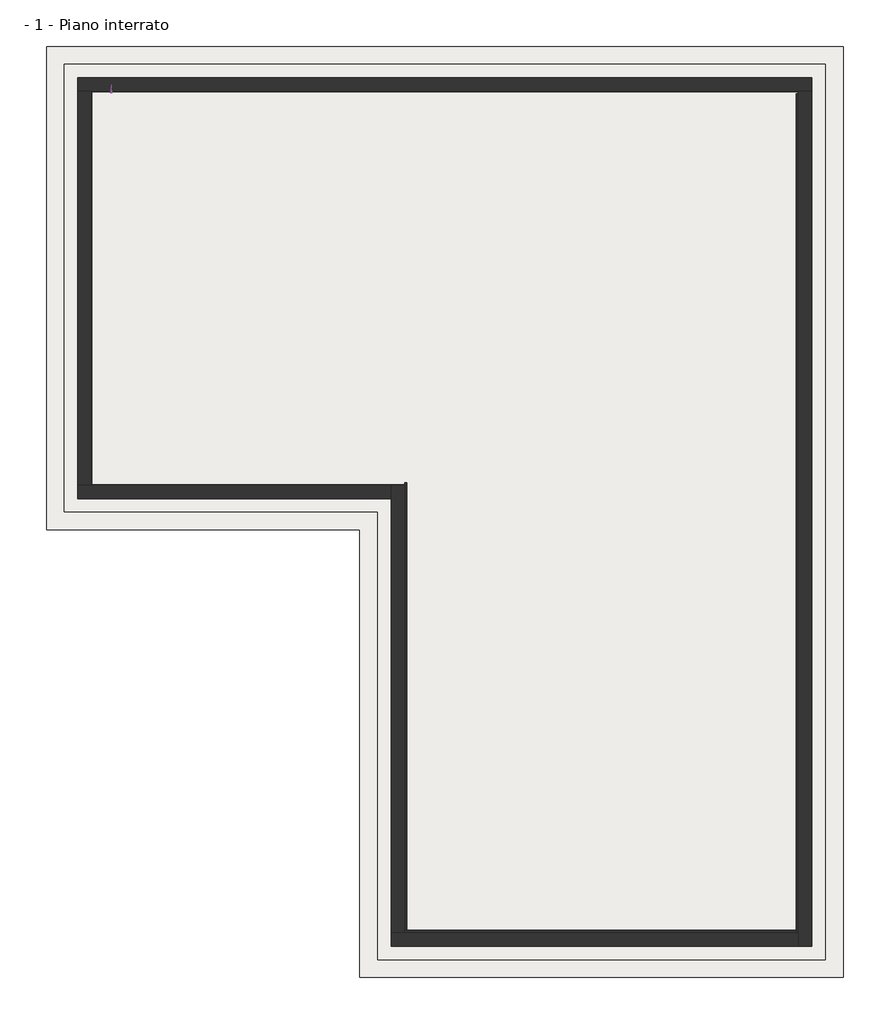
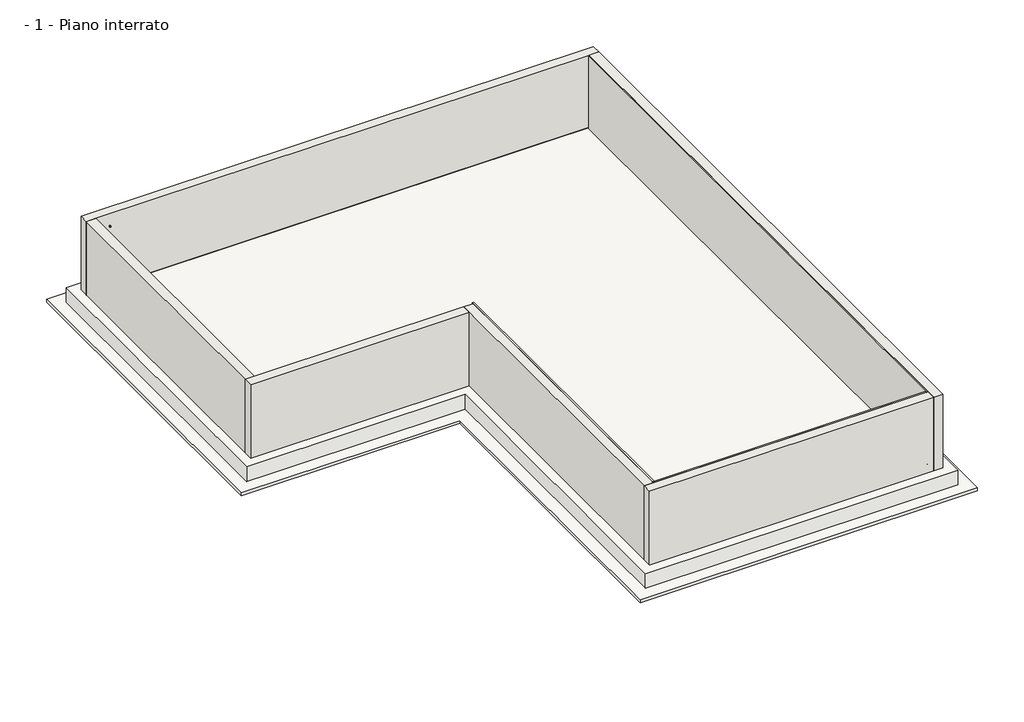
# One storey: 9 walls, 4 slabs, 3 proxies.
"""IFC4 building model written with IfcOpenShell, lengths in millimetres."""

from ifc_helpers import new_model, si_unit, frame, origin, place, context, project, spatial, polyline, ellipse_curve, outline, extrude, faceted_brep, transform, mapped, element, save
from ifc_brep_helpers import plane_surface, cylinder_surface, advanced_brep
from components import generic_models_02427750

model = new_model("IFC4")

# Units and contexts
model_context = context("Model", 3, world=origin())
ifc_project = project(units=[si_unit("LENGTHUNIT", "METRE", prefix="MILLI")], contexts=[model_context])

# Site, building, storey
site = spatial("IfcSite", under=ifc_project)
building = spatial("IfcBuilding", under=site)
storey = spatial("IfcBuildingStorey", under=building, Name="- 1 - Piano interrato", Elevation=-2500.0)

# Proxies
placement = place(None, origin())
element("IfcBuildingElementProxy", 1, Name="AKTI-VO 201", ObjectType="AKTI-VO 201", at=placement, inside=storey, context=model_context, shape_type="AdvancedBrep", body=[
    advanced_brep(
    [(-5527.8968209, 9028.648913, -2445.0), (-5517.8968209, 9018.648913, -2445.0), (10272.1031791, 9028.648913, -2445.0), (10262.1031791, 9018.648913, -2445.0)],
    [
        (0, 1, ellipse_curve(frame((-5522.8968209, 9023.648913, -2445.0), z_axis=(-0.7071067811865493, -0.7071067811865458, 0.0), x_axis=(-0.7071067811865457, 0.7071067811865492, 0.0)), 7.0710678, 5.0)),
        (1, 0, ellipse_curve(frame((-5522.8968209, 9023.648913, -2445.0), z_axis=(-0.7071067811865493, -0.7071067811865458, 0.0), x_axis=(-0.7071067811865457, 0.7071067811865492, 0.0)), 7.0710678, 5.0)),
        (2, 3, ellipse_curve(frame((10267.1031791, 9023.648913, -2445.0), z_axis=(0.7071067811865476, -0.7071067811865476, 0.0), x_axis=(-0.7071067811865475, -0.7071067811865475, 0.0)), 7.0710678, 5.0)),
        (3, 2, ellipse_curve(frame((10267.1031791, 9023.648913, -2445.0), z_axis=(0.7071067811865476, -0.7071067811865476, 0.0), x_axis=(-0.7071067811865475, -0.7071067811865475, 0.0)), 7.0710678, 5.0)),
        (0, 2),
        (3, 1),
    ],
    [
        plane_surface(frame((-5527.8968209, 9028.648913, -2145.2), z_axis=(-0.7071067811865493, -0.7071067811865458, 0.0), x_axis=(0.7071067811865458, -0.7071067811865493, 0.0))),
        plane_surface(frame((10272.1031791, 9028.648913, -2145.2), z_axis=(0.7071067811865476, -0.7071067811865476, 0.0), x_axis=(-0.7071067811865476, -0.7071067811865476, 0.0))),
        cylinder_surface(frame((-5527.8968209, 9023.648913, -2445.0), z_axis=(-1.0, 0.0, 0.0), x_axis=(0.0, -1.0, 0.0)), 5.0),
    ],
    [
        (0, [[1, 2]]),
        (1, [[3, 4]]),
        (2, [[-1, 5, -4, 6]]),
        (2, [[-2, -6, -3, -5]]),
    ],
),
    advanced_brep(
    [(-5527.8968209, 228.648913, -2445.0), (-5517.8968209, 238.648913, -2445.0), (-5527.8968209, 9028.648913, -2445.0), (-5517.8968209, 9018.648913, -2445.0)],
    [
        (0, 1, ellipse_curve(frame((-5522.8968209, 233.648913, -2445.0), z_axis=(0.7071067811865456, -0.7071067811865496, 0.0), x_axis=(-0.7071067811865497, -0.7071067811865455, 0.0)), 7.0710678, 5.0)),
        (1, 0, ellipse_curve(frame((-5522.8968209, 233.648913, -2445.0), z_axis=(0.7071067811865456, -0.7071067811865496, 0.0), x_axis=(-0.7071067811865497, -0.7071067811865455, 0.0)), 7.0710678, 5.0)),
        (2, 3, ellipse_curve(frame((-5522.8968209, 9023.648913, -2445.0), z_axis=(0.7071067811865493, 0.7071067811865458, 0.0), x_axis=(0.7071067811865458, -0.7071067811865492, 0.0)), 7.0710678, 5.0)),
        (3, 2, ellipse_curve(frame((-5522.8968209, 9023.648913, -2445.0), z_axis=(0.7071067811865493, 0.7071067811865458, 0.0), x_axis=(0.7071067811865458, -0.7071067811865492, 0.0)), 7.0710678, 5.0)),
        (0, 2),
        (3, 1),
    ],
    [
        plane_surface(frame((-5527.8968209, 228.648913, -2145.2), z_axis=(0.7071067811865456, -0.7071067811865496, 0.0), x_axis=(0.7071067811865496, 0.7071067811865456, 0.0))),
        plane_surface(frame((-5527.8968209, 9028.648913, -2145.2), z_axis=(0.7071067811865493, 0.7071067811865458, 0.0), x_axis=(0.7071067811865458, -0.7071067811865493, 0.0))),
        cylinder_surface(frame((-5522.8968209, 228.648913, -2445.0), z_axis=(0.0, -1.0, 0.0), x_axis=(1.0, 0.0, 0.0)), 5.0),
    ],
    [
        (0, [[1, 2]]),
        (1, [[3, 4]]),
        (2, [[-1, 5, -4, 6]]),
        (2, [[-2, -6, -3, -5]]),
    ],
),
    advanced_brep(
    [(10272.1031791, 9028.648913, -2445.0), (10262.1031791, 9018.648913, -2445.0), (10272.1031791, -9771.351087, -2445.0), (10262.1031791, -9761.351087, -2445.0)],
    [
        (0, 1, ellipse_curve(frame((10267.1031791, 9023.648913, -2445.0), z_axis=(-0.7071067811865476, 0.7071067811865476, 0.0), x_axis=(0.7071067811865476, 0.7071067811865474, 0.0)), 7.0710678, 5.0)),
        (1, 0, ellipse_curve(frame((10267.1031791, 9023.648913, -2445.0), z_axis=(-0.7071067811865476, 0.7071067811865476, 0.0), x_axis=(0.7071067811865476, 0.7071067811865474, 0.0)), 7.0710678, 5.0)),
        (2, 3, ellipse_curve(frame((10267.1031791, -9766.351087, -2445.0), z_axis=(-0.7071067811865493, -0.7071067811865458, 0.0), x_axis=(-0.7071067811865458, 0.707106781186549, 0.0)), 7.0710678, 5.0)),
        (3, 2, ellipse_curve(frame((10267.1031791, -9766.351087, -2445.0), z_axis=(-0.7071067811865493, -0.7071067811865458, 0.0), x_axis=(-0.7071067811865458, 0.707106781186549, 0.0)), 7.0710678, 5.0)),
        (0, 2),
        (3, 1),
    ],
    [
        plane_surface(frame((10272.1031791, 9028.648913, -2145.2), z_axis=(-0.7071067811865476, 0.7071067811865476, 0.0), x_axis=(-0.7071067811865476, -0.7071067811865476, 0.0))),
        plane_surface(frame((10272.1031791, -9771.351087, -2145.2), z_axis=(-0.7071067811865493, -0.7071067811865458, 0.0), x_axis=(-0.7071067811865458, 0.7071067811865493, 0.0))),
        cylinder_surface(frame((10267.1031791, 9028.648913, -2445.0), z_axis=(0.0, 1.0, 0.0), x_axis=(-1.0, 0.0, 0.0)), 5.0),
    ],
    [
        (0, [[1, 2]]),
        (1, [[3, 4]]),
        (2, [[-1, 5, -4, 6]]),
        (2, [[-2, -6, -3, -5]]),
    ],
),
    advanced_brep(
    [(10272.1031791, -9771.351087, -2445.0), (10262.1031791, -9761.351087, -2445.0), (1472.1031791, -9771.351087, -2445.0), (1482.1031791, -9761.351087, -2445.0)],
    [
        (0, 1, ellipse_curve(frame((10267.1031791, -9766.351087, -2445.0), z_axis=(0.7071067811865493, 0.7071067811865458, 0.0), x_axis=(0.7071067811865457, -0.7071067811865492, 0.0)), 7.0710678, 5.0)),
        (1, 0, ellipse_curve(frame((10267.1031791, -9766.351087, -2445.0), z_axis=(0.7071067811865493, 0.7071067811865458, 0.0), x_axis=(0.7071067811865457, -0.7071067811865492, 0.0)), 7.0710678, 5.0)),
        (2, 3, ellipse_curve(frame((1477.1031791, -9766.351087, -2445.0), z_axis=(-0.7071067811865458, 0.7071067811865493, 0.0), x_axis=(0.7071067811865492, 0.7071067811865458, 0.0)), 7.0710678, 5.0)),
        (3, 2, ellipse_curve(frame((1477.1031791, -9766.351087, -2445.0), z_axis=(-0.7071067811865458, 0.7071067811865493, 0.0), x_axis=(0.7071067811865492, 0.7071067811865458, 0.0)), 7.0710678, 5.0)),
        (0, 2),
        (3, 1),
    ],
    [
        plane_surface(frame((10272.1031791, -9771.351087, -2145.2), z_axis=(0.7071067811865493, 0.7071067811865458, 0.0), x_axis=(-0.7071067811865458, 0.7071067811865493, 0.0))),
        plane_surface(frame((1472.1031791, -9771.351087, -2145.2), z_axis=(-0.7071067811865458, 0.7071067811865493, 0.0), x_axis=(0.7071067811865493, 0.7071067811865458, 0.0))),
        cylinder_surface(frame((10272.1031791, -9766.351087, -2445.0), z_axis=(1.0, 0.0, 0.0), x_axis=(0.0, 1.0, 0.0)), 5.0),
    ],
    [
        (0, [[1, 2]]),
        (1, [[3, 4]]),
        (2, [[-1, 5, -4, 6]]),
        (2, [[-2, -6, -3, -5]]),
    ],
),
    advanced_brep(
    [(1472.1031791, -9771.351087, -2445.0), (1482.1031791, -9761.351087, -2445.0), (1472.1031791, 228.648913, -2445.0), (1482.1031791, 238.648913, -2445.0)],
    [
        (0, 1, ellipse_curve(frame((1477.1031791, -9766.351087, -2445.0), z_axis=(0.7071067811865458, -0.7071067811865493, 0.0), x_axis=(-0.7071067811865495, -0.7071067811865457, 0.0)), 7.0710678, 5.0)),
        (1, 0, ellipse_curve(frame((1477.1031791, -9766.351087, -2445.0), z_axis=(0.7071067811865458, -0.7071067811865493, 0.0), x_axis=(-0.7071067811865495, -0.7071067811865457, 0.0)), 7.0710678, 5.0)),
        (2, 3, ellipse_curve(frame((1477.1031791, 233.648913, -2445.0), z_axis=(-0.7071067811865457, 0.7071067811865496, 0.0), x_axis=(-0.7071067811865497, -0.7071067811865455, 0.0)), 7.0710678, 5.0)),
        (3, 2, ellipse_curve(frame((1477.1031791, 233.648913, -2445.0), z_axis=(-0.7071067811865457, 0.7071067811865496, 0.0), x_axis=(-0.7071067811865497, -0.7071067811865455, 0.0)), 7.0710678, 5.0)),
        (0, 2),
        (3, 1),
    ],
    [
        plane_surface(frame((1472.1031791, -9771.351087, -2145.2), z_axis=(0.7071067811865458, -0.7071067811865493, 0.0), x_axis=(0.7071067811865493, 0.7071067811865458, 0.0))),
        plane_surface(frame((1472.1031791, 228.648913, -2754.8), z_axis=(-0.7071067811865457, 0.7071067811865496, 0.0), x_axis=(-0.7071067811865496, -0.7071067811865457, 0.0))),
        cylinder_surface(frame((1477.1031791, -9771.351087, -2445.0), z_axis=(0.0, -1.0, 0.0), x_axis=(1.0, 0.0, 0.0)), 5.0),
    ],
    [
        (0, [[1, 2]]),
        (1, [[3, 4]]),
        (2, [[-1, 5, -4, 6]]),
        (2, [[-2, -6, -3, -5]]),
    ],
),
    advanced_brep(
    [(1472.1031791, 228.648913, -2445.0), (1482.1031791, 238.648913, -2445.0), (-5527.8968209, 228.648913, -2445.0), (-5517.8968209, 238.648913, -2445.0)],
    [
        (0, 1, ellipse_curve(frame((1477.1031791, 233.648913, -2445.0), z_axis=(0.7071067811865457, -0.7071067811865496, 0.0), x_axis=(0.7071067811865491, 0.7071067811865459, 0.0)), 7.0710678, 5.0)),
        (1, 0, ellipse_curve(frame((1477.1031791, 233.648913, -2445.0), z_axis=(0.7071067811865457, -0.7071067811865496, 0.0), x_axis=(0.7071067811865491, 0.7071067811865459, 0.0)), 7.0710678, 5.0)),
        (2, 3, ellipse_curve(frame((-5522.8968209, 233.648913, -2445.0), z_axis=(-0.7071067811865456, 0.7071067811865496, 0.0), x_axis=(0.7071067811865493, 0.7071067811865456, 0.0)), 7.0710678, 5.0)),
        (3, 2, ellipse_curve(frame((-5522.8968209, 233.648913, -2445.0), z_axis=(-0.7071067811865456, 0.7071067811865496, 0.0), x_axis=(0.7071067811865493, 0.7071067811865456, 0.0)), 7.0710678, 5.0)),
        (0, 2),
        (3, 1),
    ],
    [
        plane_surface(frame((1472.1031791, 228.648913, -2754.8), z_axis=(0.7071067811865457, -0.7071067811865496, 0.0), x_axis=(-0.7071067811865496, -0.7071067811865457, 0.0))),
        plane_surface(frame((-5527.8968209, 228.648913, -2145.2), z_axis=(-0.7071067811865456, 0.7071067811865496, 0.0), x_axis=(0.7071067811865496, 0.7071067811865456, 0.0))),
        cylinder_surface(frame((1472.1031791, 233.648913, -2445.0), z_axis=(1.0, 0.0, 0.0), x_axis=(0.0, 1.0, 0.0)), 5.0),
    ],
    [
        (0, [[1, 2]]),
        (1, [[3, 4]]),
        (2, [[-1, 5, -4, 6]]),
        (2, [[-2, -6, -3, -5]]),
    ],
),
])
generic_models_shape = generic_models_02427750(model_context)
element("IfcBuildingElementProxy", 2, Name="ITA-CONNETTORE 38 VOLTECO su parete verticale sigillato con AKTI-VO 201 : ITA-CONNETTORE 38 VOLTECO su parete verticale sigillato con AKTI-VO 201", ObjectType="ITA-CONNETTORE 38 VOLTECO su parete verticale sigillato con AKTI-VO 201 : ITA-CONNETTORE 38 VOLTECO su parete verticale sigillato con AKTI-VO 201", at=placement, inside=storey, context=model_context, shape_type="MappedRepresentation", body=[
    mapped(generic_models_shape, transform((-5082.0233871, 9175.648913, -412.8666514), x_axis=(1.0, 0.0, 0.0), y_axis=(0.0, 0.0, 1.0), z_axis=(0.0, -1.0, 0.0))),
])
element("IfcBuildingElementProxy", 3, Name="ITA-CONNETTORE 38 VOLTECO in orizzontale sigillato con AKTI-VO 201 : ITA-CONNETTORE 38 VOLTECO in orizzontale sigillato con AKTI-VO 201", ObjectType="ITA-CONNETTORE 38 VOLTECO in orizzontale sigillato con AKTI-VO 201 : ITA-CONNETTORE 38 VOLTECO in orizzontale sigillato con AKTI-VO 201", at=placement, inside=storey, context=model_context, shape_type="MappedRepresentation", body=[
    mapped(generic_models_shape, transform((-5107.9941893, 8630.2302588, -2647.0), x_axis=(0.0, 1.0, 0.0), y_axis=(-1.0, 0.0, 0.0), z_axis=(0.0, 0.0, 1.0))),
])

# Slabs
element("IfcSlab", 4, ObjectType="FIBRO HFR VOLTECO", at=placement, inside=storey, context=model_context, shape_type="SweptSolid", body=[
    extrude(outline(polyline([(10272.1031791, 9028.648913), (10272.1031791, -9771.351087), (1472.1031791, -9771.351087), (1472.1031791, 228.648913), (-5527.8968209, 228.648913), (-5527.8968209, 9028.648913), (10272.1031791, 9028.648913)])), frame((0.0, 0.0, -2500.0), z_axis=(0.0, 0.0, 1.0), x_axis=(1.0, 0.0, 0.0)), (0.0, 0.0, 1.0), 50.0),
])
element("IfcSlab", 5, ObjectType="RETE METALLICA ELETTROSALDATA Ø 8", at=placement, inside=storey, context=model_context, shape_type="SweptSolid", body=[
    extrude(outline(polyline([(10272.1031791, 9028.648913), (10272.1031791, -9771.351087), (1472.1031791, -9771.351087), (1472.1031791, 228.648913), (-5527.8968209, 228.648913), (-5527.8968209, 9028.648913), (10272.1031791, 9028.648913)])), frame((0.0, 0.0, -2462.0), z_axis=(0.0, 0.0, 1.0), x_axis=(1.0, 0.0, 0.0)), (0.0, 0.0, 1.0), 8.0),
])
element("IfcSlab", 6, ObjectType="Magrone - 10 cm", at=placement, inside=storey, context=model_context, shape_type="SweptSolid", body=[
    extrude(outline(polyline([(-6527.8968209, 10028.648913), (11272.1031791, 10028.648913), (11272.1031791, -10771.351087), (472.1031791, -10771.351087), (472.1031791, -771.351087), (-6527.8968209, -771.351087), (-6527.8968209, 10028.648913)])), frame((0.0, 0.0, -3100.0), z_axis=(0.0, 0.0, 1.0), x_axis=(1.0, 0.0, 0.0)), (0.0, 0.0, 1.0), 100.0),
])
element("IfcSlab", 7, ObjectType="Platea - 50 cm", at=placement, inside=storey, context=model_context, shape_type="SweptSolid", body=[
    extrude(outline(polyline([(-6127.8968209, -371.351087), (-6127.8968209, 9628.648913), (10872.1031791, 9628.648913), (10872.1031791, -10371.351087), (872.1031791, -10371.351087), (872.1031791, -371.351087), (-6127.8968209, -371.351087)])), frame((0.0, 0.0, -3000.0), z_axis=(0.0, 0.0, 1.0), x_axis=(1.0, 0.0, 0.0)), (0.0, 0.0, 1.0), 500.0),
])

# Walls
element("IfcWall", 8, ObjectType="FIBRO HFR verticale VOLTECO", at=placement, inside=storey, context=model_context, shape_type="Brep", body=[
    faceted_brep([(10222.1031791, 8978.648913, -2500.0), (10222.1031791, -9721.351087, -2500.0), (10222.1031791, -9771.351087, -2500.0), (10222.1031791, -9771.351087, 0.0), (10222.1031791, -9721.351087, 0.0), (10222.1031791, 8978.648913, 0.0), (10272.1031791, 8978.648913, -2500.0), (10272.1031791, 8978.648913, -2450.0), (10272.1031791, 8978.648913, 0.0), (10272.1031791, -9771.351087, 0.0), (10272.1031791, -9771.351087, -2500.0)], [[[0, 1, 2, 3, 4, 5]], [[6, 7, 8, 9, 10]], [[2, 1, 0, 6, 10]], [[5, 4, 3, 9, 8]], [[0, 5, 8, 7, 6]], [[3, 2, 10, 9]]]),
])
element("IfcWall", 9, ObjectType="FIBRO HFR verticale VOLTECO", at=placement, inside=storey, context=model_context, shape_type="Brep", body=[
    faceted_brep([(10222.1031791, -9721.351087, -2500.0), (1522.1031791, -9721.351087, -2500.0), (1472.1031791, -9721.351087, -2500.0), (1472.1031791, -9721.351087, 0.0), (1522.1031791, -9721.351087, 0.0), (10222.1031791, -9721.351087, 0.0), (10222.1031791, -9771.351087, -2500.0), (10222.1031791, -9771.351087, 0.0), (1472.1031791, -9771.351087, 0.0), (1472.1031791, -9771.351087, -2500.0)], [[[0, 1, 2, 3, 4, 5]], [[6, 7, 8, 9]], [[2, 1, 0, 6, 9]], [[5, 4, 3, 8, 7]], [[0, 5, 7, 6]], [[3, 2, 9, 8]]]),
])
element("IfcWall", 10, ObjectType="FIBRO HFR verticale VOLTECO", at=placement, inside=storey, context=model_context, shape_type="Brep", body=[
    faceted_brep([(1522.1031791, -9721.351087, -2500.0), (1522.1031791, 278.648913, -2500.0), (1522.1031791, 278.648913, 0.0), (1522.1031791, -9721.351087, 0.0), (1472.1031791, -9721.351087, -2500.0), (1472.1031791, -9721.351087, 0.0), (1472.1031791, 228.648913, 0.0), (1472.1031791, 278.648913, 0.0), (1472.1031791, 278.648913, -2450.0), (1472.1031791, 278.648913, -2500.0)], [[[0, 1, 2, 3]], [[4, 5, 6, 7, 8, 9]], [[1, 0, 4, 9]], [[3, 2, 7, 6, 5]], [[2, 1, 9, 8, 7]], [[0, 3, 5, 4]]]),
])
element("IfcWall", 11, ObjectType="Generico - 30 cm", at=placement, inside=storey, context=model_context, shape_type="Brep", body=[
    faceted_brep([(-5827.8968209, 9028.648913, -2500.0), (-5527.8968209, 9028.648913, -2500.0), (10272.1031791, 9028.648913, -2500.0), (10572.1031791, 9028.648913, -2500.0), (10572.1031791, 9028.648913, 0.0), (10272.1031791, 9028.648913, 0.0), (-5527.8968209, 9028.648913, 0.0), (-5827.8968209, 9028.648913, 0.0), (10572.1031791, 9328.648913, -2500.0), (-5827.8968209, 9328.648913, -2500.0), (-5827.8968209, 9328.648913, 0.0), (10572.1031791, 9328.648913, 0.0)], [[[0, 1, 2, 3, 4, 5, 6, 7]], [[8, 9, 10, 11]], [[3, 2, 1, 0, 9, 8]], [[7, 6, 5, 4, 11, 10]], [[4, 3, 8, 11]], [[0, 7, 10, 9]]]),
])
element("IfcWall", 12, ObjectType="Generico - 30 cm", at=placement, inside=storey, context=model_context, shape_type="Brep", body=[
    faceted_brep([(10272.1031791, 9028.648913, -2500.0), (10272.1031791, -9771.351087, -2500.0), (10272.1031791, -10071.351087, -2500.0), (10272.1031791, -10071.351087, 0.0), (10272.1031791, -9771.351087, 0.0), (10272.1031791, 9028.648913, 0.0), (10272.1031791, 9028.648913, -2445.0), (10572.1031791, -10071.351087, -2500.0), (10572.1031791, 9028.648913, -2500.0), (10572.1031791, 9028.648913, 0.0), (10572.1031791, -10071.351087, 0.0)], [[[0, 1, 2, 3, 4, 5, 6]], [[7, 8, 9, 10]], [[2, 1, 0, 8, 7]], [[5, 4, 3, 10, 9]], [[5, 9, 8, 0, 6]], [[3, 2, 7, 10]]]),
])
element("IfcWall", 13, ObjectType="Generico - 30 cm", at=placement, inside=storey, context=model_context, shape_type="Brep", body=[
    faceted_brep([(10272.1031791, -9771.351087, -2500.0), (1472.1031791, -9771.351087, -2500.0), (1172.1031791, -9771.351087, -2500.0), (1172.1031791, -9771.351087, 0.0), (1472.1031791, -9771.351087, 0.0), (10272.1031791, -9771.351087, 0.0), (10272.1031791, -9771.351087, -2445.0), (1172.1031791, -10071.351087, -2500.0), (10272.1031791, -10071.351087, -2500.0), (10272.1031791, -10071.351087, 0.0), (1172.1031791, -10071.351087, 0.0)], [[[0, 1, 2, 3, 4, 5, 6]], [[7, 8, 9, 10]], [[2, 1, 0, 8, 7]], [[5, 4, 3, 10, 9]], [[5, 9, 8, 0, 6]], [[3, 2, 7, 10]]]),
])
element("IfcWall", 14, ObjectType="Generico - 30 cm", at=placement, inside=storey, context=model_context, shape_type="Brep", body=[
    faceted_brep([(1472.1031791, -9771.351087, -2500.0), (1472.1031791, 228.648913, -2500.0), (1472.1031791, 228.648913, -2445.0), (1472.1031791, 228.648913, 0.0), (1472.1031791, -9771.351087, 0.0), (1472.1031791, -9771.351087, -2445.0), (1172.1031791, 228.648913, -2500.0), (1172.1031791, -71.351087, -2500.0), (1172.1031791, -9771.351087, -2500.0), (1172.1031791, -9771.351087, 0.0), (1172.1031791, -71.351087, 0.0), (1172.1031791, 228.648913, 0.0), (1172.1031791, 228.648913, -2445.0)], [[[0, 1, 2, 3, 4, 5]], [[6, 7, 8, 9, 10, 11, 12]], [[1, 0, 8, 7, 6]], [[4, 3, 11, 10, 9]], [[4, 9, 8, 0, 5]], [[1, 6, 12, 11, 3, 2]]]),
])
element("IfcWall", 15, ObjectType="Generico - 30 cm", at=placement, inside=storey, context=model_context, shape_type="Brep", body=[
    faceted_brep([(1172.1031791, 228.648913, -2500.0), (-5527.8968209, 228.648913, -2500.0), (-5827.8968209, 228.648913, -2500.0), (-5827.8968209, 228.648913, 0.0), (-5527.8968209, 228.648913, 0.0), (1172.1031791, 228.648913, 0.0), (1172.1031791, 228.648913, -2445.0), (-5827.8968209, -71.351087, -2500.0), (1172.1031791, -71.351087, -2500.0), (1172.1031791, -71.351087, 0.0), (-5827.8968209, -71.351087, 0.0)], [[[0, 1, 2, 3, 4, 5, 6]], [[7, 8, 9, 10]], [[2, 1, 0, 8, 7]], [[5, 4, 3, 10, 9]], [[5, 9, 8, 0, 6]], [[3, 2, 7, 10]]]),
])
element("IfcWall", 16, ObjectType="Generico - 30 cm", at=placement, inside=storey, context=model_context, shape_type="Brep", body=[
    faceted_brep([(-5527.8968209, 228.648913, -2500.0), (-5527.8968209, 9028.648913, -2500.0), (-5527.8968209, 9028.648913, -2445.0), (-5527.8968209, 9028.648913, 0.0), (-5527.8968209, 228.648913, 0.0), (-5527.8968209, 228.648913, -2445.0), (-5827.8968209, 9028.648913, -2500.0), (-5827.8968209, 228.648913, -2500.0), (-5827.8968209, 228.648913, 0.0), (-5827.8968209, 9028.648913, 0.0)], [[[0, 1, 2, 3, 4, 5]], [[6, 7, 8, 9]], [[1, 0, 7, 6]], [[4, 3, 9, 8]], [[1, 6, 9, 3, 2]], [[4, 8, 7, 0, 5]]]),
])

save(model, "model.ifc")
